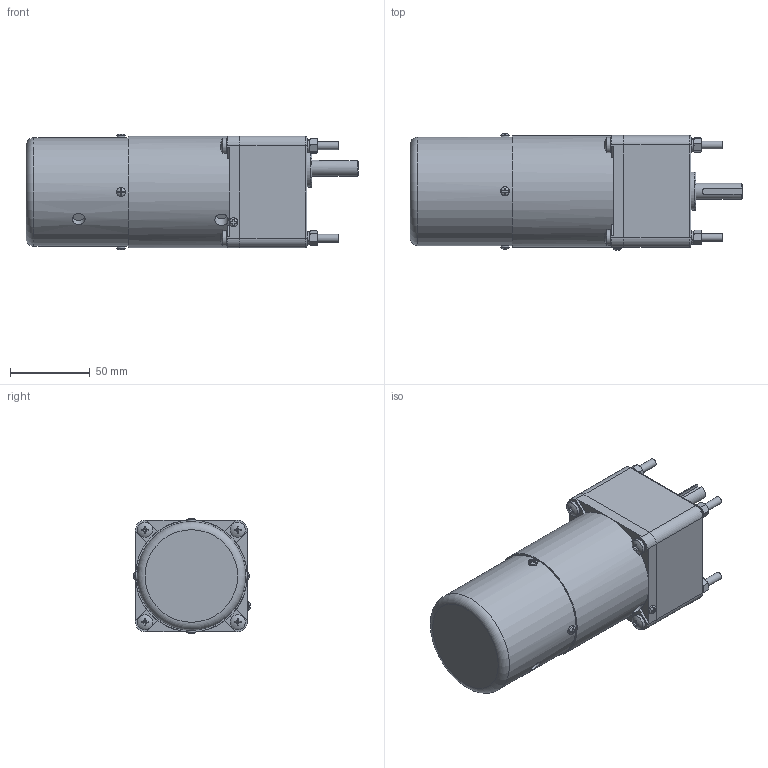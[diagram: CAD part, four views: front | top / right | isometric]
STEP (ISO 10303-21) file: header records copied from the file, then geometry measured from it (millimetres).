
FILE_DESCRIPTION(/* description */ (''),/* implementation_level */ '2;1');
FILE_NAME(/* name */ '70高箱T-15W刹车调速.stp',/* time_stamp */ '2022-10-31T09:29:55+08:00',/* author */ (''),/* organization */ (''),/* preprocessor_version */ 'ST-DEVELOPER v16.7',/* originating_system */ 'SIEMENS PLM Software NX 1899',/* authorisation */ '');
FILE_SCHEMA (('AP203_CONFIGURATION_CONTROLLED_3D_DESIGN_OF_MECHANICAL_PARTS_AND_ASSEMBLIES_MIM_LF { 1 0 10303 403 2 1 2}'));
Length unit declared in the file: millimetre
Products named in the file (1): yf186188FEB6lc84
Bounding box: 208 x 73.28 x 72.48 mm (x, y, z)
Volume: 714914.7 mm3; surface area: 73506.5 mm2
Topology: 22 solids, 23 shells, 447 faces, 1076 edges, 696 vertices
Faces by surface type: plane 207, bspline 80, cylinder 77, cone 63, torus 11, sphere 9
Full cylindrical faces by diameter (mm): 2.7 x1, 4.351 x4, 4.826 x4, 5 x4, 5.3 x8, 5.6 x5, 6 x9, 8 x1, 8.3 x1, 9 x8, 9.5 x4, 10 x1, 24 x1, 63 x1, 66.6 x2, 68 x1, 70 x1
Entity records: 14347 total; most frequent: CARTESIAN_POINT 3858, ORIENTED_EDGE 1904, DIRECTION 1703, EDGE_CURVE 952, AXIS2_PLACEMENT_3D 708, VERTEX_POINT 658, EDGE_LOOP 593, ADVANCED_FACE 447
